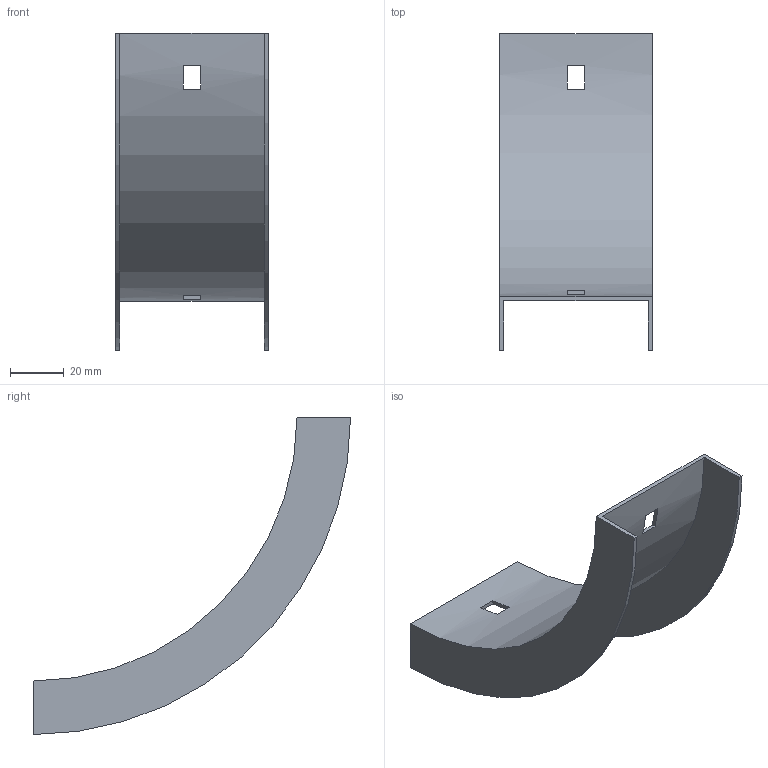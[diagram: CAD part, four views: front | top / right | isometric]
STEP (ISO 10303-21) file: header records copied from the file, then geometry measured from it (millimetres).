
FILE_DESCRIPTION (( 'STEP AP214' ), '1' );
FILE_NAME ('30N1R050.step', '2025-02-21T09:23:25', ( '' ), ( '' ), 'SwSTEP 2.0', 'SolidWorks 2023', '' );
FILE_SCHEMA (( 'AUTOMOTIVE_DESIGN' ));
Length unit declared in the file: millimetre
Products named in the file (1): 30N1R050
Bounding box: 57 x 118.5 x 118.5 mm (x, y, z)
Volume: 22675.9 mm3; surface area: 31165.7 mm2
Topology: 1 solids, 1 shells, 18 faces, 48 edges, 32 vertices
Faces by surface type: plane 14, cylinder 4
Entity records: 599 total; most frequent: DIRECTION 102, CARTESIAN_POINT 99, ORIENTED_EDGE 96, EDGE_CURVE 48, AXIS2_PLACEMENT_3D 35, VECTOR 32, LINE 32, VERTEX_POINT 32
